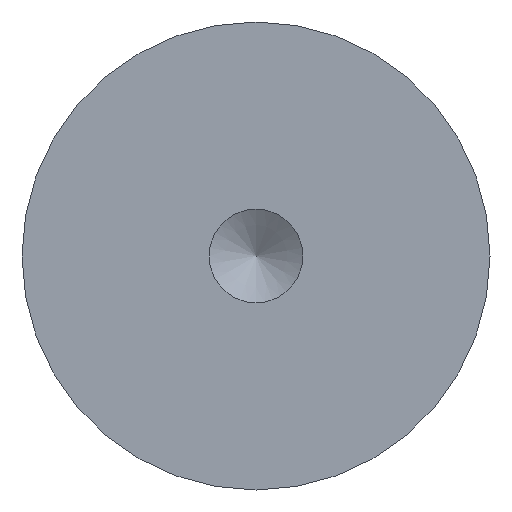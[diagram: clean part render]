
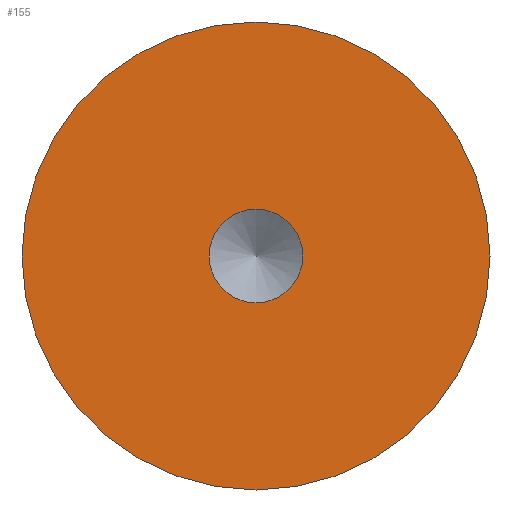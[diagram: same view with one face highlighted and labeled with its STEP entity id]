
A CAD part, front view. The second image highlights one B-rep face of the part: STEP entity #155.
In plain terms, the highlighted planar face has unit normal (0, -1, 0).
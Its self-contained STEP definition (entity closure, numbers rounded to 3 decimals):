
#155 = ADVANCED_FACE( '', ( #351, #352 ), #353, .F. );
#351 = FACE_BOUND( '', #586, .T. );
#352 = FACE_OUTER_BOUND( '', #587, .T. );
#353 = PLANE( '', #588 );
#586 = EDGE_LOOP( '', ( #1215 ) );
#587 = EDGE_LOOP( '', ( #1216 ) );
#588 = AXIS2_PLACEMENT_3D( '', #1217, #1218, #1219 );
#1215 = ORIENTED_EDGE( '', *, *, #1893, .F. );
#1216 = ORIENTED_EDGE( '', *, *, #1894, .T. );
#1217 = CARTESIAN_POINT( '', ( 25., 0., 0. ) );
#1218 = DIRECTION( '', ( 0., 1., 0. ) );
#1219 = DIRECTION( '', ( 0., 0., 1. ) );
#1893 = EDGE_CURVE( '', #2415, #2415, #2416, .T. );
#1894 = EDGE_CURVE( '', #2417, #2417, #2418, .T. );
#2415 = VERTEX_POINT( '', #3443 );
#2416 = CIRCLE( '', #3444, 5. );
#2417 = VERTEX_POINT( '', #3445 );
#2418 = CIRCLE( '', #3446, 25. );
#3443 = CARTESIAN_POINT( '', ( 0., 0., -5. ) );
#3444 = AXIS2_PLACEMENT_3D( '', #3988, #3989, #3990 );
#3445 = CARTESIAN_POINT( '', ( 0., 0., -25. ) );
#3446 = AXIS2_PLACEMENT_3D( '', #3991, #3992, #3993 );
#3988 = CARTESIAN_POINT( '', ( 0., 0., 0. ) );
#3989 = DIRECTION( '', ( 0., -1., 0. ) );
#3990 = DIRECTION( '', ( 0., 0., -1. ) );
#3991 = CARTESIAN_POINT( '', ( 0., 0., 0. ) );
#3992 = DIRECTION( '', ( 0., -1., 0. ) );
#3993 = DIRECTION( '', ( 0., 0., -1. ) );
